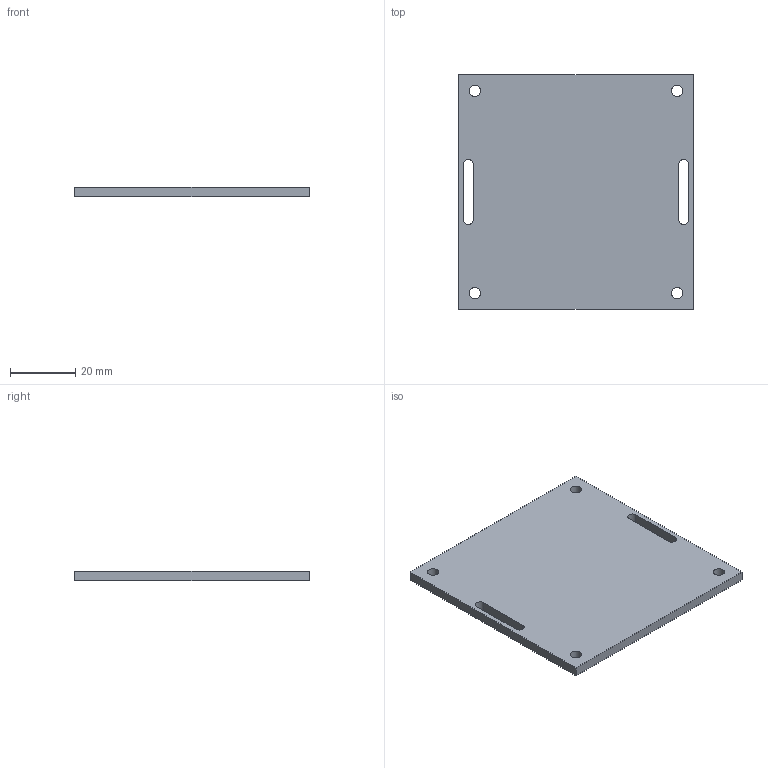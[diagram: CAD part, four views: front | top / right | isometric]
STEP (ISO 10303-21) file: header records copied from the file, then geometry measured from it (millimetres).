
FILE_DESCRIPTION(('Open CASCADE Model'),'2;1');
FILE_NAME('Open CASCADE Shape Model','2026-10-15T18:22:09',('Author'),( 'Open CASCADE'),'Open CASCADE STEP processor 7.9','Open CASCADE 7.9' ,'Unknown');
FILE_SCHEMA(('AUTOMOTIVE_DESIGN { 1 0 10303 214 1 1 1 1 }'));
Length unit declared in the file: millimetre
Products named in the file (1): Open CASCADE STEP translator 7.9 18
Bounding box: 72 x 72 x 3 mm (x, y, z)
Volume: 15088.1 mm3; surface area: 11315.3 mm2
Topology: 1 solids, 1 shells, 18 faces, 48 edges, 32 vertices
Faces by surface type: plane 10, cylinder 8
Full cylindrical faces by diameter (mm): 3.5 x4
Entity records: 1234 total; most frequent: CARTESIAN_POINT 259, DIRECTION 174, ORIENTED_EDGE 96, LINE 96, VECTOR 96, PCURVE 96, DEFINITIONAL_REPRESENTATION 96, EDGE_CURVE 48
